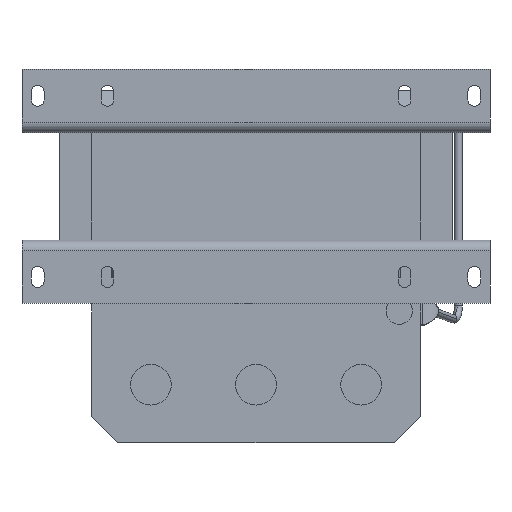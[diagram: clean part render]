
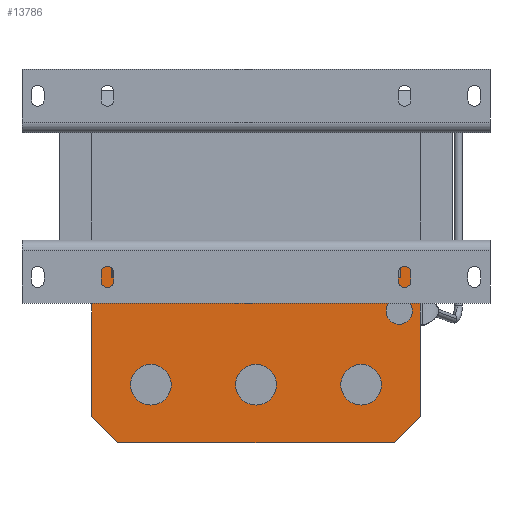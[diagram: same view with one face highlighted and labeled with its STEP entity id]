
A CAD part, front view. The second image highlights one B-rep face of the part: STEP entity #13786.
In plain terms, the highlighted planar face has unit normal (0, -1, 0).
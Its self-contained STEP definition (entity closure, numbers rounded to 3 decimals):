
#90 = LINE ( 'NONE', #18688, #10190 ) ;
#240 = CARTESIAN_POINT ( 'NONE',  ( 50.17, 27., -49.95 ) ) ;
#402 = VERTEX_POINT ( 'NONE', #21615 ) ;
#448 = AXIS2_PLACEMENT_3D ( 'NONE', #10679, #7050, #1446 ) ;
#881 = ORIENTED_EDGE ( 'NONE', *, *, #12475, .F. ) ;
#1036 = LINE ( 'NONE', #12208, #21948 ) ;
#1075 = CARTESIAN_POINT ( 'NONE',  ( -62.5, 27., -87.45 ) ) ;
#1292 = DIRECTION ( 'NONE',  ( 0., -1., 0. ) ) ;
#1322 = LINE ( 'NONE', #1075, #14435 ) ;
#1446 = DIRECTION ( 'NONE',  ( 0., 0., 1. ) ) ;
#1675 = EDGE_CURVE ( 'NONE', #8246, #15151, #5090, .T. ) ;
#1678 = CIRCLE ( 'NONE', #5179, 5. ) ;
#1813 = DIRECTION ( 'NONE',  ( 0., 1., 0. ) ) ;
#1867 = VERTEX_POINT ( 'NONE', #10406 ) ;
#2257 = VERTEX_POINT ( 'NONE', #15618 ) ;
#2500 = DIRECTION ( 'NONE',  ( 0., 0., 1. ) ) ;
#2584 = AXIS2_PLACEMENT_3D ( 'NONE', #16599, #13079, #10765 ) ;
#3232 = LINE ( 'NONE', #8466, #10117 ) ;
#3668 = EDGE_LOOP ( 'NONE', ( #881, #13001 ) ) ;
#3842 = EDGE_LOOP ( 'NONE', ( #12351, #6416 ) ) ;
#3954 = CARTESIAN_POINT ( 'NONE',  ( 40., 27., -75.45 ) ) ;
#4116 = DIRECTION ( 'NONE',  ( -1., 0., 0. ) ) ;
#4188 = AXIS2_PLACEMENT_3D ( 'NONE', #6551, #8487, #17252 ) ;
#4476 = VERTEX_POINT ( 'NONE', #12126 ) ;
#4489 = LINE ( 'NONE', #10088, #19447 ) ;
#4690 = EDGE_CURVE ( 'NONE', #8524, #16827, #90, .T. ) ;
#5038 = VERTEX_POINT ( 'NONE', #7008 ) ;
#5090 = LINE ( 'NONE', #5947, #14715 ) ;
#5173 = DIRECTION ( 'NONE',  ( -1., 0., 0. ) ) ;
#5179 = AXIS2_PLACEMENT_3D ( 'NONE', #16406, #1813, #21726 ) ;
#5721 = EDGE_CURVE ( 'NONE', #2257, #4476, #6134, .T. ) ;
#5947 = CARTESIAN_POINT ( 'NONE',  ( 62.5, 27., -26.45 ) ) ;
#5961 = CARTESIAN_POINT ( 'NONE',  ( 54.5, 27., -47.45 ) ) ;
#6134 = CIRCLE ( 'NONE', #4188, 7.75 ) ;
#6155 = CARTESIAN_POINT ( 'NONE',  ( 62.5, 27., -26.45 ) ) ;
#6221 = AXIS2_PLACEMENT_3D ( 'NONE', #3954, #11361, #17187 ) ;
#6416 = ORIENTED_EDGE ( 'NONE', *, *, #13700, .F. ) ;
#6422 = ORIENTED_EDGE ( 'NONE', *, *, #1675, .T. ) ;
#6551 = CARTESIAN_POINT ( 'NONE',  ( 0., 27., -75.45 ) ) ;
#6633 = CIRCLE ( 'NONE', #19417, 7.75 ) ;
#7008 = CARTESIAN_POINT ( 'NONE',  ( 40., 27., -67.7 ) ) ;
#7050 = DIRECTION ( 'NONE',  ( 0., -1., 0. ) ) ;
#7206 = VERTEX_POINT ( 'NONE', #17578 ) ;
#7858 = ORIENTED_EDGE ( 'NONE', *, *, #22093, .T. ) ;
#7986 = ORIENTED_EDGE ( 'NONE', *, *, #8403, .F. ) ;
#8246 = VERTEX_POINT ( 'NONE', #6155 ) ;
#8403 = EDGE_CURVE ( 'NONE', #8524, #1867, #1036, .T. ) ;
#8466 = CARTESIAN_POINT ( 'NONE',  ( 62.5, 27., -22.45 ) ) ;
#8487 = DIRECTION ( 'NONE',  ( 0., -1., 0. ) ) ;
#8524 = VERTEX_POINT ( 'NONE', #13180 ) ;
#8843 = DIRECTION ( 'NONE',  ( 0., 0., 1. ) ) ;
#8874 = CARTESIAN_POINT ( 'NONE',  ( -40., 27., -67.7 ) ) ;
#9562 = FACE_OUTER_BOUND ( 'NONE', #16309, .T. ) ;
#10088 = CARTESIAN_POINT ( 'NONE',  ( -62.5, 27., -22.45 ) ) ;
#10117 = VECTOR ( 'NONE', #10650, 1000. ) ;
#10190 = VECTOR ( 'NONE', #16978, 1000. ) ;
#10406 = CARTESIAN_POINT ( 'NONE',  ( -52.5, 27., -97.45 ) ) ;
#10417 = VERTEX_POINT ( 'NONE', #240 ) ;
#10650 = DIRECTION ( 'NONE',  ( 0., 0., -1. ) ) ;
#10679 = CARTESIAN_POINT ( 'NONE',  ( -40., 27., -75.45 ) ) ;
#10765 = DIRECTION ( 'NONE',  ( 0., 0., 1. ) ) ;
#11010 = CARTESIAN_POINT ( 'NONE',  ( 62.5, 27., -22.45 ) ) ;
#11144 = CIRCLE ( 'NONE', #2584, 7.75 ) ;
#11246 = FACE_BOUND ( 'NONE', #3668, .T. ) ;
#11361 = DIRECTION ( 'NONE',  ( 0., -1., 0. ) ) ;
#11376 = FACE_BOUND ( 'NONE', #3842, .T. ) ;
#11738 = VERTEX_POINT ( 'NONE', #16781 ) ;
#12110 = ORIENTED_EDGE ( 'NONE', *, *, #23731, .T. ) ;
#12126 = CARTESIAN_POINT ( 'NONE',  ( 0., 27., -67.7 ) ) ;
#12208 = CARTESIAN_POINT ( 'NONE',  ( 62.5, 27., -97.45 ) ) ;
#12351 = ORIENTED_EDGE ( 'NONE', *, *, #20813, .F. ) ;
#12372 = DIRECTION ( 'NONE',  ( 0.707, 0., -0.707 ) ) ;
#12475 = EDGE_CURVE ( 'NONE', #14979, #402, #11144, .T. ) ;
#12601 = CARTESIAN_POINT ( 'NONE',  ( 40., 27., -75.45 ) ) ;
#12641 = ORIENTED_EDGE ( 'NONE', *, *, #13655, .F. ) ;
#12719 = ORIENTED_EDGE ( 'NONE', *, *, #4690, .T. ) ;
#12829 = FACE_BOUND ( 'NONE', #19161, .T. ) ;
#13001 = ORIENTED_EDGE ( 'NONE', *, *, #22168, .F. ) ;
#13079 = DIRECTION ( 'NONE',  ( 0., -1., 0. ) ) ;
#13180 = CARTESIAN_POINT ( 'NONE',  ( 52.5, 27., -97.45 ) ) ;
#13536 = ORIENTED_EDGE ( 'NONE', *, *, #21952, .T. ) ;
#13605 = CIRCLE ( 'NONE', #6221, 7.75 ) ;
#13655 = EDGE_CURVE ( 'NONE', #8246, #16827, #3232, .T. ) ;
#13700 = EDGE_CURVE ( 'NONE', #7206, #5038, #6633, .T. ) ;
#13786 = ADVANCED_FACE ( 'NONE', ( #22164, #11246, #12829, #11376, #9562 ), #20357, .F. ) ;
#13798 = ORIENTED_EDGE ( 'NONE', *, *, #5721, .F. ) ;
#14435 = VECTOR ( 'NONE', #12372, 1000. ) ;
#14715 = VECTOR ( 'NONE', #4116, 1000. ) ;
#14909 = DIRECTION ( 'NONE',  ( 0., 1., 0. ) ) ;
#14979 = VERTEX_POINT ( 'NONE', #8874 ) ;
#15151 = VERTEX_POINT ( 'NONE', #20637 ) ;
#15283 = CARTESIAN_POINT ( 'NONE',  ( 0., 27., -75.45 ) ) ;
#15618 = CARTESIAN_POINT ( 'NONE',  ( 0., 27., -83.2 ) ) ;
#16301 = EDGE_CURVE ( 'NONE', #10417, #11738, #1678, .T. ) ;
#16309 = EDGE_LOOP ( 'NONE', ( #12719, #12641, #6422, #13536, #7858, #7986 ) ) ;
#16406 = CARTESIAN_POINT ( 'NONE',  ( 54.5, 27., -47.45 ) ) ;
#16424 = AXIS2_PLACEMENT_3D ( 'NONE', #15283, #21086, #2500 ) ;
#16498 = ORIENTED_EDGE ( 'NONE', *, *, #23207, .F. ) ;
#16599 = CARTESIAN_POINT ( 'NONE',  ( -40., 27., -75.45 ) ) ;
#16781 = CARTESIAN_POINT ( 'NONE',  ( 58.83, 27., -44.95 ) ) ;
#16827 = VERTEX_POINT ( 'NONE', #18200 ) ;
#16959 = DIRECTION ( 'NONE',  ( 0., 0., 1. ) ) ;
#16978 = DIRECTION ( 'NONE',  ( 0.707, 0., 0.707 ) ) ;
#17003 = EDGE_LOOP ( 'NONE', ( #12110, #17696 ) ) ;
#17187 = DIRECTION ( 'NONE',  ( 0., 0., 1. ) ) ;
#17252 = DIRECTION ( 'NONE',  ( 0., 0., 1. ) ) ;
#17578 = CARTESIAN_POINT ( 'NONE',  ( 40., 27., -83.2 ) ) ;
#17696 = ORIENTED_EDGE ( 'NONE', *, *, #16301, .T. ) ;
#18200 = CARTESIAN_POINT ( 'NONE',  ( 62.5, 27., -87.45 ) ) ;
#18351 = CIRCLE ( 'NONE', #16424, 7.75 ) ;
#18688 = CARTESIAN_POINT ( 'NONE',  ( 52.5, 27., -97.45 ) ) ;
#18766 = CIRCLE ( 'NONE', #20295, 5. ) ;
#19161 = EDGE_LOOP ( 'NONE', ( #16498, #13798 ) ) ;
#19417 = AXIS2_PLACEMENT_3D ( 'NONE', #12601, #1292, #8843 ) ;
#19447 = VECTOR ( 'NONE', #22942, 1000. ) ;
#20254 = VERTEX_POINT ( 'NONE', #21727 ) ;
#20295 = AXIS2_PLACEMENT_3D ( 'NONE', #5961, #22214, #22330 ) ;
#20357 = PLANE ( 'NONE',  #22515 ) ;
#20637 = CARTESIAN_POINT ( 'NONE',  ( -62.5, 27., -26.45 ) ) ;
#20813 = EDGE_CURVE ( 'NONE', #5038, #7206, #13605, .T. ) ;
#21086 = DIRECTION ( 'NONE',  ( 0., -1., 0. ) ) ;
#21615 = CARTESIAN_POINT ( 'NONE',  ( -40., 27., -83.2 ) ) ;
#21726 = DIRECTION ( 'NONE',  ( 0., 0., 1. ) ) ;
#21727 = CARTESIAN_POINT ( 'NONE',  ( -62.5, 27., -87.45 ) ) ;
#21948 = VECTOR ( 'NONE', #5173, 1000. ) ;
#21952 = EDGE_CURVE ( 'NONE', #15151, #20254, #4489, .T. ) ;
#22093 = EDGE_CURVE ( 'NONE', #20254, #1867, #1322, .T. ) ;
#22164 = FACE_BOUND ( 'NONE', #17003, .T. ) ;
#22168 = EDGE_CURVE ( 'NONE', #402, #14979, #22938, .T. ) ;
#22214 = DIRECTION ( 'NONE',  ( 0., 1., 0. ) ) ;
#22330 = DIRECTION ( 'NONE',  ( 0., 0., 1. ) ) ;
#22515 = AXIS2_PLACEMENT_3D ( 'NONE', #11010, #14909, #16959 ) ;
#22938 = CIRCLE ( 'NONE', #448, 7.75 ) ;
#22942 = DIRECTION ( 'NONE',  ( 0., 0., -1. ) ) ;
#23207 = EDGE_CURVE ( 'NONE', #4476, #2257, #18351, .T. ) ;
#23731 = EDGE_CURVE ( 'NONE', #11738, #10417, #18766, .T. ) ;
